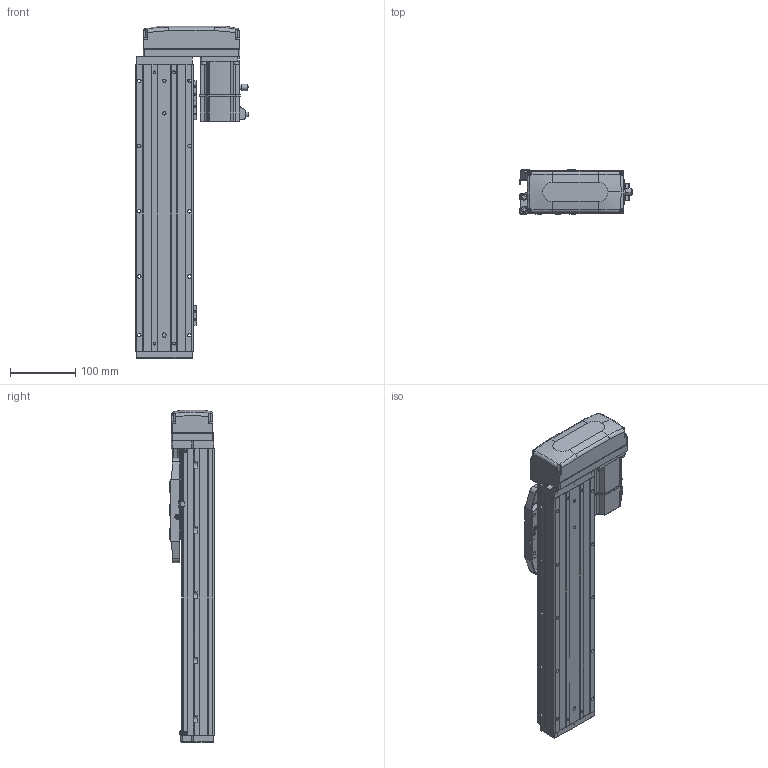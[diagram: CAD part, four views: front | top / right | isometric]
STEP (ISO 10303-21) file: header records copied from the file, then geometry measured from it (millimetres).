
FILE_DESCRIPTION (( 'STEP AP203' ), '1' );
FILE_NAME ('CTHA86-250-BL-M20-C4L.step', '2022-04-26T00:50:34', ( '微软用户' ), ( '微软中国' ), 'SwSTEP 2.0', 'SolidWorks 2020', '' );
FILE_SCHEMA (( 'CONFIG_CONTROL_DESIGN' ));
Length unit declared in the file: millimetre
Products named in the file (21): CTHA60-021; _X2_4E0983F1_X0_200W_1; CTHA86-250-BL-M20-C4L; KTHA86-001_440; GBT77-2000 M3×3; CTHA86-002; KTHA86-004; GBT 70.1-M3×20; CTHA86-031; KTHA86-005; GBT70.1 M5℅16; CTHA86-030; GB¨uT 70.2-M3¡Á5_M3¡Á6; GBT 70.1-M3×16; GBT 70.3-M3℅6; EE_SX911P_R; GBT 70.1-M3℅6; CTHA86-015-1_CTHA86-015-2; CTHA60-017; CTHA60-016; CTHA86-033
Assembly tree (66 placements, depth 2):
  CTHA86-250-BL-M20-C4L
    KTHA86-001_440
    KTHA86-004
    KTHA86-005
    GB¨uT 70.2-M3¡Á5_M3¡Á6  x10
    EE_SX911P_R  x3
    CTHA60-017  x3
    CTHA60-021  x2
    GBT77-2000 M3×3  x6
    GBT 70.1-M3×20
    GBT70.1 M5℅16  x14
    GBT 70.1-M3×16  x5
    GBT 70.1-M3℅6  x6
    CTHA60-016  x2
    _X2_4E0983F1_X0_200W_1
    CTHA86-002
    CTHA86-031
    CTHA86-030  x2
    GBT 70.3-M3℅6  x4
    CTHA86-015-1_CTHA86-015-2
    CTHA86-033
Bounding box: 172.7 x 68 x 509 mm (x, y, z)
Volume: 2356924.8 mm3; surface area: 423666.9 mm2
Topology: 68 solids, 68 shells, 2706 faces, 6428 edges, 3952 vertices
Faces by surface type: plane 1415, cylinder 699, cone 361, torus 132, bspline 75, sphere 24
Entity records: 46497 total; most frequent: CARTESIAN_POINT 9059, DIRECTION 7189, ORIENTED_EDGE 6956, EDGE_CURVE 3478, AXIS2_PLACEMENT_3D 2466, VECTOR 2257, LINE 2257, VERTEX_POINT 2184
